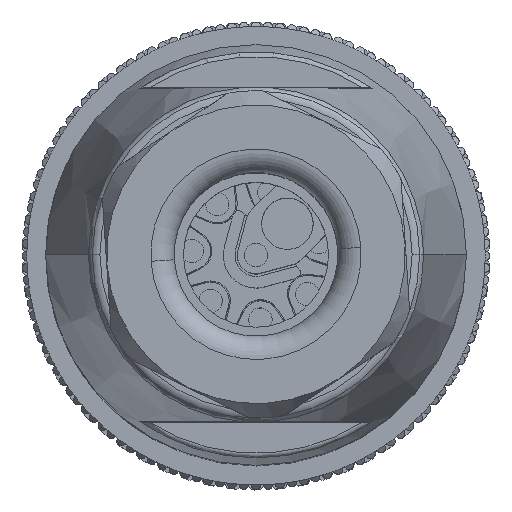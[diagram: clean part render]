
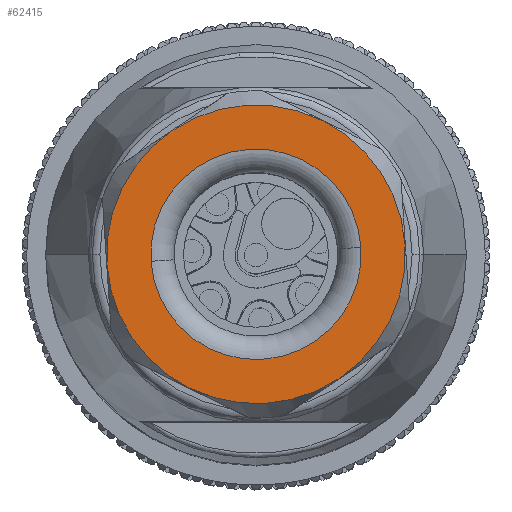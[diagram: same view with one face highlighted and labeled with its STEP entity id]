
A CAD part, top view. The second image highlights one B-rep face of the part: STEP entity #62415.
In plain terms, the highlighted planar face has unit normal (0, 0, 1).
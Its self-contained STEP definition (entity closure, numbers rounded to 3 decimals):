
#22647=CARTESIAN_POINT('',(0.,0.,38.5));
#22648=DIRECTION('',(0.,0.,-1.));
#22649=DIRECTION('',(-0.998,-0.066,0.));
#22650=AXIS2_PLACEMENT_3D('',#22647,#22648,#22649);
#22652=CARTESIAN_POINT('',(0.,0.,38.5));
#22653=DIRECTION('',(0.,0.,-1.));
#22654=DIRECTION('',(0.998,0.066,0.));
#22655=AXIS2_PLACEMENT_3D('',#22652,#22653,#22654);
#22657=CARTESIAN_POINT('',(0.,0.,38.5));
#22658=DIRECTION('',(0.,0.,1.));
#22659=DIRECTION('',(0.998,0.066,0.));
#22660=AXIS2_PLACEMENT_3D('',#22657,#22658,#22659);
#22662=CARTESIAN_POINT('',(0.,0.,38.5));
#22663=DIRECTION('',(0.,0.,1.));
#22664=DIRECTION('',(-0.998,-0.066,0.));
#22665=AXIS2_PLACEMENT_3D('',#22662,#22663,#22664);
#40966=CARTESIAN_POINT('',(6.376,0.421,38.5));
#40968=VERTEX_POINT('',#40966);
#40970=CARTESIAN_POINT('',(-6.376,-0.421,38.5));
#40972=VERTEX_POINT('',#40970);
#40982=CARTESIAN_POINT('',(-4.49,-0.297,38.5));
#40983=CARTESIAN_POINT('',(4.49,0.297,38.5));
#40984=VERTEX_POINT('',#40982);
#40985=VERTEX_POINT('',#40983);
#62400=CARTESIAN_POINT('',(0.,0.,38.5));
#62401=DIRECTION('',(0.,0.,-1.));
#62402=DIRECTION('',(-0.998,-0.066,0.));
#62403=AXIS2_PLACEMENT_3D('',#62400,#62401,#62402);
#62404=PLANE('',#62403);
#62406=ORIENTED_EDGE('',*,*,#62405,.F.);
#62408=ORIENTED_EDGE('',*,*,#62407,.F.);
#62409=EDGE_LOOP('',(#62406,#62408));
#62410=FACE_OUTER_BOUND('',#62409,.F.);
#62411=ORIENTED_EDGE('',*,*,#62393,.F.);
#62412=ORIENTED_EDGE('',*,*,#62379,.F.);
#62413=EDGE_LOOP('',(#62411,#62412));
#62414=FACE_BOUND('',#62413,.F.);
#62415=ADVANCED_FACE('',(#62410,#62414),#62404,.F.);
#22651=CIRCLE('',#22650,4.5);
#22656=CIRCLE('',#22655,4.5);
#22661=CIRCLE('',#22660,6.39);
#22666=CIRCLE('',#22665,6.39);
#62379=EDGE_CURVE('',#40985,#40984,#22656,.T.);
#62393=EDGE_CURVE('',#40984,#40985,#22651,.T.);
#62405=EDGE_CURVE('',#40968,#40972,#22661,.T.);
#62407=EDGE_CURVE('',#40972,#40968,#22666,.T.);
